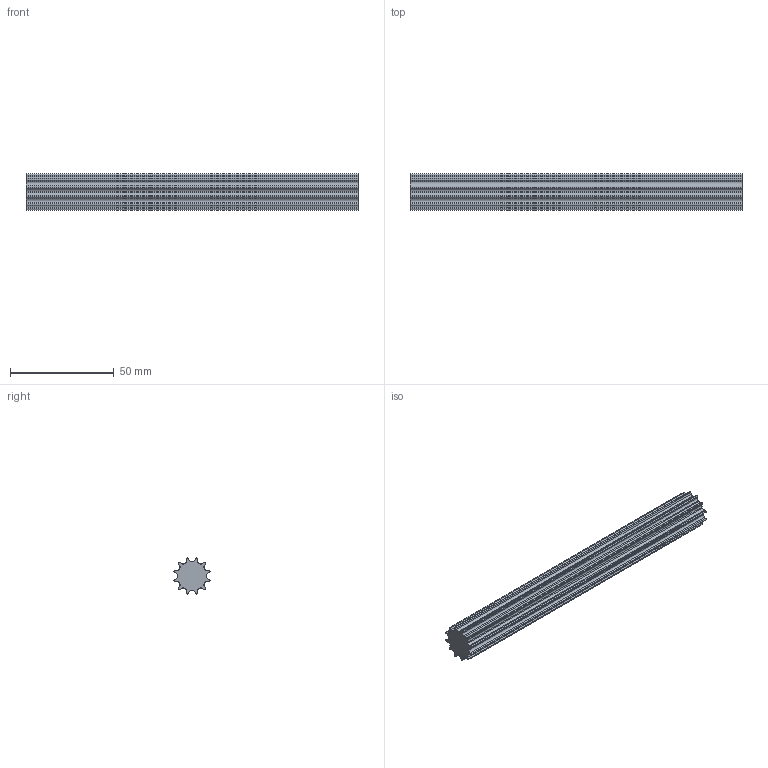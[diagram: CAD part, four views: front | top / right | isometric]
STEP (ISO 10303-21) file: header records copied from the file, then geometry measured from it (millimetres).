
FILE_DESCRIPTION( ( 'STEP AP214' ), '1' );
FILE_NAME( 'C:/Users/StangenbergN/Documents/CAD_Step/1/17291200.stp', '2019-08-23T07:23:01', ( '' ), ( '' ), ' ', 'PARTsolutions', ' ' );
FILE_SCHEMA( ( 'AUTOMOTIVE_DESIGN { 1 0 10303 214 1 1 1 1 }' ) );
Length unit declared in the file: millimetre
Products named in the file (1): _17291200
Bounding box: 160 x 17.39 x 17.39 mm (x, y, z)
Volume: 29421.1 mm3; surface area: 12643.5 mm2
Topology: 1 solids, 1 shells, 98 faces, 288 edges, 192 vertices
Faces by surface type: cylinder 60, plane 38
Entity records: 4112 total; most frequent: DIRECTION 606, CARTESIAN_POINT 579, ORIENTED_EDGE 576, EDGE_CURVE 288, AXIS2_PLACEMENT_3D 219, VERTEX_POINT 192, LINE 168, VECTOR 168
